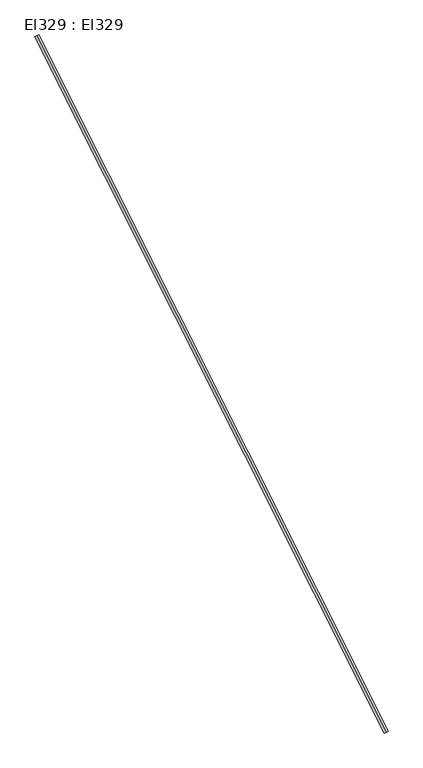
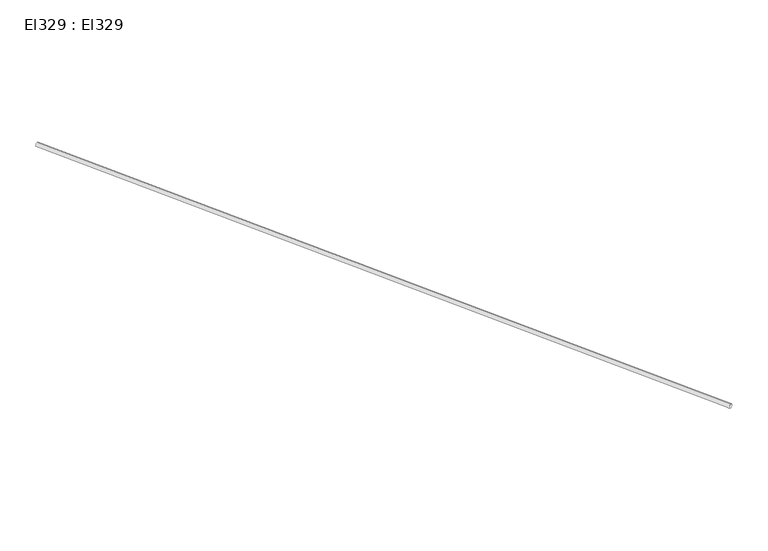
"""IFC4 building model written with IfcOpenShell, lengths in millimetres: cable carrier segment geometry, El329 : El329."""

from ifc_helpers import new_model, si_unit, point, frame, frame_2d, origin, place, context, project, spatial, circle_curve, trimmed, segment, composite_curve, outline, extrude, source, transform, mapped, element, save


def el329_el329_982d8afc(model_context):
    return source(origin(), model_context, "Body", "SweptSolid", [
        extrude(outline(composite_curve([segment(trimmed(circle_curve(frame_2d((0.0, -9.5)), 9.5), [point((0.0, -19.0))], [point((0.0, 0.0))], False, "CARTESIAN"), True, "CONTINUOUS"), segment(trimmed(circle_curve(frame_2d((0.0, -9.5)), 9.5), [point((0.0, 0.0))], [point((0.0, -19.0))], False, "CARTESIAN"), True, "CONTINUOUS")], self_intersect=False)), frame((9736.795, 6795.82, 2959.5), z_axis=(-0.4483588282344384, 0.8938536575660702, 0.0), x_axis=(-0.8938536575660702, -0.4483588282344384, 0.0)), (0.0, 0.0, 1.0), 3396.36),
    ])


if __name__ == "__main__":
    model = new_model("IFC4")
    model_context = context("Model", 3, world=origin())
    ifc_project = project(units=[si_unit("LENGTHUNIT", "METRE", prefix="MILLI")], contexts=[model_context])
    site = spatial("IfcSite", under=ifc_project)
    building = spatial("IfcBuilding", under=site)
    placement = place(None, origin())
    el329_el329_shape = el329_el329_982d8afc(model_context)
    element("IfcCableCarrierSegment", 1, ObjectType="El329 : El329", at=placement, inside=building, context=model_context, shape_type="MappedRepresentation", body=[
        mapped(el329_el329_shape, transform((0.0, 0.0, 0.0), x_axis=(1.0, 0.0, 0.0), y_axis=(0.0, 1.0, 0.0), z_axis=(0.0, 0.0, 1.0))),
    ])
    save(model, "model.ifc")
